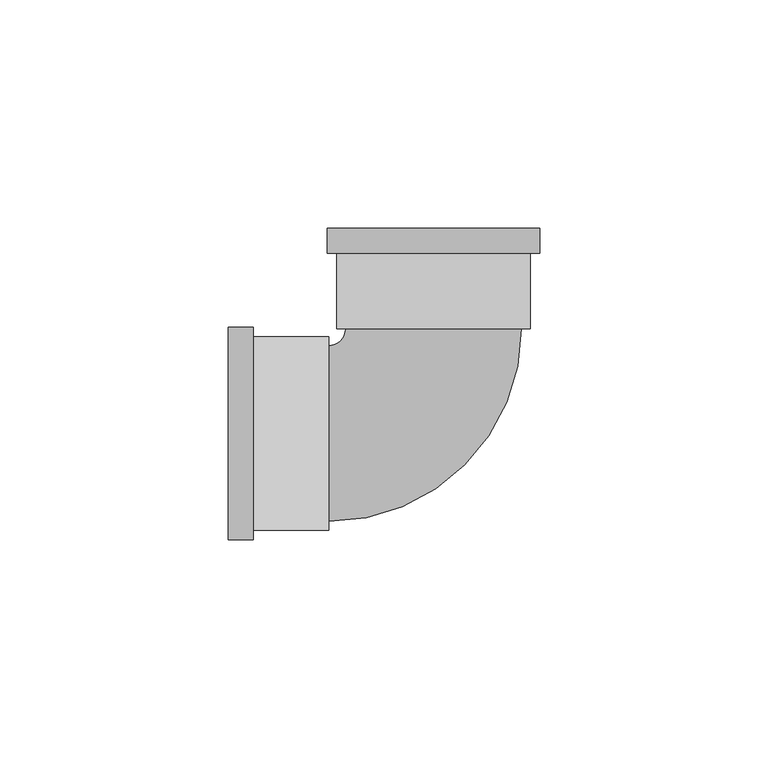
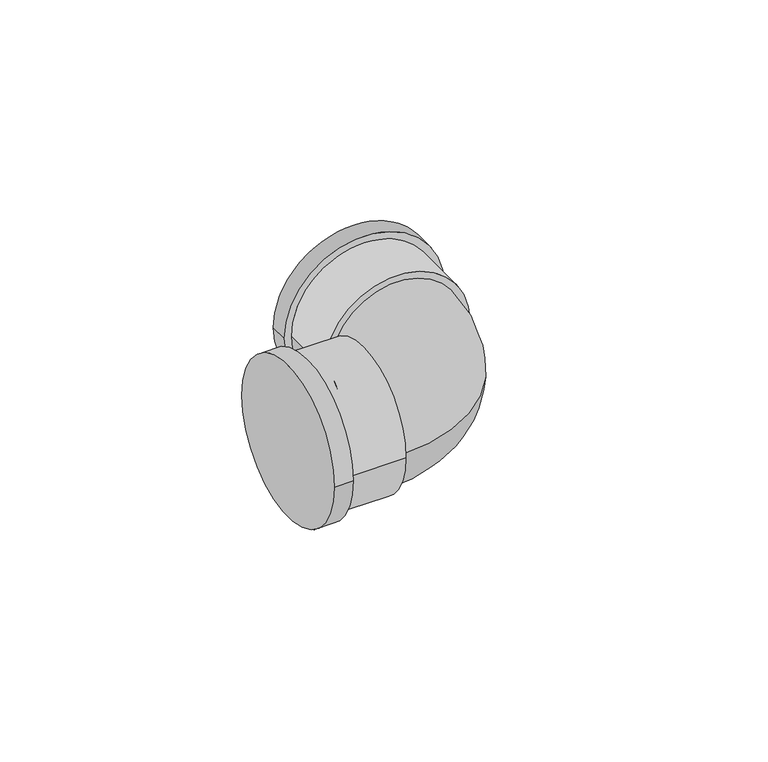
"""IFC4 building model written with IfcOpenShell, lengths in millimetres: pipe fitting geometry, Cotovelo - PVC - CW : Padrão."""

from ifc_helpers import new_model, si_unit, point, frame, origin, place, context, project, spatial, circle_curve, ellipse_curve, trimmed, source, transform, mapped, element, save
from ifc_brep_helpers import plane_surface, cylinder_surface, revolved_surface, advanced_brep


def pipe_fitting_8df3e382(model_context):
    return source(origin(), model_context, "Body", "AdvancedBrep", [
        advanced_brep(
        [(-45.0009787, -23.2925, 0.0), (-45.0009787, 23.2925, 0.0), (-39.5009787, -23.2925, 0.0), (-39.5009787, 23.2925, 0.0), (-39.5009787, -21.175, 0.0), (-39.5009787, 21.175, 0.0), (-23.0009787, 21.175, 0.0), (-23.0009787, -21.175, 0.0), (-23.0009787, -19.25, 0.0), (-23.0009787, 19.25, 0.0), (-19.2509787, 23.0001596, 0.0), (19.2490213, 23.0017977, 0.0), (21.1740213, 23.0018797, 0.0), (-21.1759787, 23.0000777, 0.0), (-23.2944148, 44.9999875, 0.0), (23.2905852, 45.0019697, 0.0), (21.1733192, 39.5018796, 0.0), (-21.1766808, 39.5000776, 0.0), (-23.2941808, 39.4999875, 0.0), (23.2908192, 39.5019697, 0.0)],
        [
            (0, 1, circle_curve(frame((-45.0009787, 0.0, 0.0), z_axis=(-1.0, 0.0, 0.0), x_axis=(0.0, 1.0, 0.0)), 23.2925)),
            (1, 0, circle_curve(frame((-45.0009787, 0.0, 0.0), z_axis=(-1.0, 0.0, 0.0), x_axis=(0.0, 1.0, 0.0)), 23.2925)),
            (2, 3, circle_curve(frame((-39.5009787, 0.0, 0.0), z_axis=(1.0, 0.0, 0.0), x_axis=(0.0, 1.0, 0.0)), 23.2925)),
            (3, 2, circle_curve(frame((-39.5009787, 0.0, 0.0), z_axis=(1.0, 0.0, 0.0), x_axis=(0.0, 1.0, 0.0)), 23.2925)),
            (4, 5, circle_curve(frame((-39.5009787, 0.0, 0.0), z_axis=(-1.0, 0.0, 0.0), x_axis=(0.0, -1.0, 0.0)), 21.175)),
            (5, 4, circle_curve(frame((-39.5009787, 0.0, 0.0), z_axis=(-1.0, 0.0, 0.0), x_axis=(0.0, -1.0, 0.0)), 21.175)),
            (0, 2),
            (3, 1),
            (6, 7, circle_curve(frame((-23.0009787, 0.0, 0.0), z_axis=(1.0, 0.0, 0.0), x_axis=(0.0, -1.0, 0.0)), 21.175)),
            (7, 6, circle_curve(frame((-23.0009787, 0.0, 0.0), z_axis=(1.0, 0.0, 0.0), x_axis=(0.0, -1.0, 0.0)), 21.175)),
            (8, 9, circle_curve(frame((-23.0009787, 0.0, 0.0), z_axis=(-1.0, 0.0, 0.0), x_axis=(0.0, 1.0, 0.0)), 19.25)),
            (9, 8, circle_curve(frame((-23.0009787, 0.0, 0.0), z_axis=(-1.0, 0.0, 0.0), x_axis=(0.0, 1.0, 0.0)), 19.25)),
            (6, 5),
            (4, 7),
            (10, 9, circle_curve(frame((-23.0009787, 23.0, 0.0), z_axis=(0.0, 0.0, -1.0), x_axis=(0.0, -1.0, 0.0)), 3.75)),
            (8, 11, circle_curve(frame((-23.0009787, 23.0, 0.0), z_axis=(0.0, 0.0, 1.0), x_axis=(0.0, -1.0, 0.0)), 42.25)),
            (11, 10, circle_curve(frame((-0.0009787, 23.0009787, 0.0), z_axis=(4.255026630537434e-05, -0.9999999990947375, 0.0), x_axis=(-0.9999999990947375, -4.255026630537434e-05, 0.0)), 19.25)),
            (10, 11, circle_curve(frame((-0.0009787, 23.0009787, 0.0), z_axis=(4.255026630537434e-05, -0.9999999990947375, 0.0), x_axis=(-0.9999999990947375, -4.255026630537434e-05, 0.0)), 19.25)),
            (12, 13, circle_curve(frame((-0.0009787, 23.0009787, 0.0), z_axis=(4.2550266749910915e-05, -0.9999999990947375, 0.0), x_axis=(-0.9999999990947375, -4.2550266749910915e-05, 0.0)), 21.175)),
            (13, 12, circle_curve(frame((-0.0009787, 23.0009787, 0.0), z_axis=(4.2550266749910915e-05, -0.9999999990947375, 0.0), x_axis=(-0.9999999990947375, -4.2550266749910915e-05, 0.0)), 21.175)),
            (14, 15, circle_curve(frame((-0.0019148, 45.0009786, 0.0), z_axis=(-4.255026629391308e-05, 0.9999999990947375, 0.0), x_axis=(0.9999999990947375, 4.255026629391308e-05, 0.0)), 23.2925)),
            (15, 14, circle_curve(frame((-0.0019148, 45.0009786, 0.0), z_axis=(-4.255026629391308e-05, 0.9999999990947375, 0.0), x_axis=(0.9999999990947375, 4.255026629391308e-05, 0.0)), 23.2925)),
            (12, 16),
            (16, 17, circle_curve(frame((-0.0016808, 39.5009786, 0.0), z_axis=(4.2550266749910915e-05, -0.9999999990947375, 0.0), x_axis=(-0.9999999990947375, -4.2550266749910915e-05, 0.0)), 21.175)),
            (17, 13),
            (17, 16, circle_curve(frame((-0.0016808, 39.5009786, 0.0), z_axis=(4.2550266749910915e-05, -0.9999999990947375, 0.0), x_axis=(-0.9999999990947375, -4.2550266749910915e-05, 0.0)), 21.175)),
            (18, 19, circle_curve(frame((-0.0016808, 39.5009786, 0.0), z_axis=(4.255026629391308e-05, -0.9999999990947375, 0.0), x_axis=(0.9999999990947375, 4.255026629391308e-05, 0.0)), 23.2925)),
            (19, 18, circle_curve(frame((-0.0016808, 39.5009786, 0.0), z_axis=(4.255026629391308e-05, -0.9999999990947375, 0.0), x_axis=(0.9999999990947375, 4.255026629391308e-05, 0.0)), 23.2925)),
            (14, 18),
            (19, 15),
        ],
        [
            plane_surface(frame((-45.0009787, 0.0, 0.0), z_axis=(-1.0, 0.0, 0.0), x_axis=(0.0, 0.0, 1.0))),
            plane_surface(frame((-39.5009787, 0.0, 0.0), z_axis=(1.0, 0.0, 0.0), x_axis=(0.0, 0.0, 1.0))),
            cylinder_surface(frame((-45.0009787, 0.0, 0.0), z_axis=(-1.0, 0.0, 0.0), x_axis=(0.0, 1.0, 0.0)), 23.2925),
            plane_surface(frame((-23.0009787, 0.0, 0.0), z_axis=(1.0, 0.0, 0.0), x_axis=(0.0, 0.0, 1.0))),
            cylinder_surface(frame((-23.0009787, 0.0, 0.0), z_axis=(1.0, 0.0, 0.0), x_axis=(0.0, -1.0, 0.0)), 21.175),
            revolved_surface(trimmed(ellipse_curve(frame((-23.0009787, 0.0, 0.0), z_axis=(-1.0, 0.0, 0.0), x_axis=(0.0, 1.0, 0.0)), 19.25, 19.25), [point((-23.0009787, -19.25, 0.0))], [point((-23.0009787, 19.25, 0.0))], True, "CARTESIAN"), (-23.0009787, 23.0, 0.0), (0.0, 0.0, 1.0)),
            revolved_surface(trimmed(ellipse_curve(frame((-23.0009787, 0.0, 0.0), z_axis=(-1.0, 0.0, 0.0), x_axis=(0.0, 1.0, 0.0)), 19.25, 19.25), [point((-23.0009787, 19.25, 0.0))], [point((-23.0009787, -19.25, 0.0))], True, "CARTESIAN"), (-23.0009787, 23.0, 0.0), (0.0, 0.0, 1.0)),
            plane_surface(frame((-0.0009787, 23.0009787, 0.0), z_axis=(4.255026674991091e-05, -0.9999999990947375, 0.0), x_axis=(0.0, 0.0, 1.0))),
            plane_surface(frame((-0.0019148, 45.0009786, 0.0), z_axis=(-4.255026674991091e-05, 0.9999999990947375, 0.0), x_axis=(0.0, 0.0, 1.0))),
            cylinder_surface(frame((-0.0009787, 23.0009787, 0.0), z_axis=(4.2550266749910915e-05, -0.9999999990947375, 0.0), x_axis=(-0.9999999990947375, -4.2550266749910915e-05, 0.0)), 21.175),
            plane_surface(frame((-0.0016808, 39.5009786, 0.0), z_axis=(4.255026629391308e-05, -0.9999999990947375, 0.0), x_axis=(0.0, 0.0, 1.0))),
            cylinder_surface(frame((-0.0019148, 45.0009786, 0.0), z_axis=(-4.255026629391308e-05, 0.9999999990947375, 0.0), x_axis=(0.9999999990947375, 4.255026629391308e-05, 0.0)), 23.2925),
        ],
        [
            (0, [[1, 2]]),
            (1, [[3, 4], [5, 6]]),
            (2, [[-1, 7, -4, 8]]),
            (2, [[-2, -8, -3, -7]]),
            (3, [[9, 10], [11, 12]]),
            (4, [[-9, 13, -5, 14]]),
            (4, [[-10, -14, -6, -13]]),
            (5, [[15, -11, 16, 17]]),
            (6, [[-15, 18, -16, -12]]),
            (7, [[19, 20], [-17, -18]]),
            (8, [[21, 22]]),
            (9, [[-19, 23, 24, 25]]),
            (9, [[-20, -25, 26, -23]]),
            (10, [[27, 28], [-24, -26]]),
            (11, [[-21, 29, -28, 30]]),
            (11, [[-22, -30, -27, -29]]),
        ],
    ),
    ])


if __name__ == "__main__":
    model = new_model("IFC4")
    model_context = context("Model", 3, world=origin())
    ifc_project = project(units=[si_unit("LENGTHUNIT", "METRE", prefix="MILLI")], contexts=[model_context])
    site = spatial("IfcSite", under=ifc_project)
    building = spatial("IfcBuilding", under=site)
    placement = place(None, origin())
    pipe_fitting_shape = pipe_fitting_8df3e382(model_context)
    element("IfcPipeFitting", 1, ObjectType="Cotovelo - PVC - CW : Padrão", at=placement, inside=building, context=model_context, shape_type="MappedRepresentation", body=[
        mapped(pipe_fitting_shape, transform((0.0, 0.0, 0.0), x_axis=(1.0, 0.0, 0.0), y_axis=(0.0, 1.0, 0.0), z_axis=(0.0, 0.0, 1.0))),
    ])
    save(model, "model.ifc")
